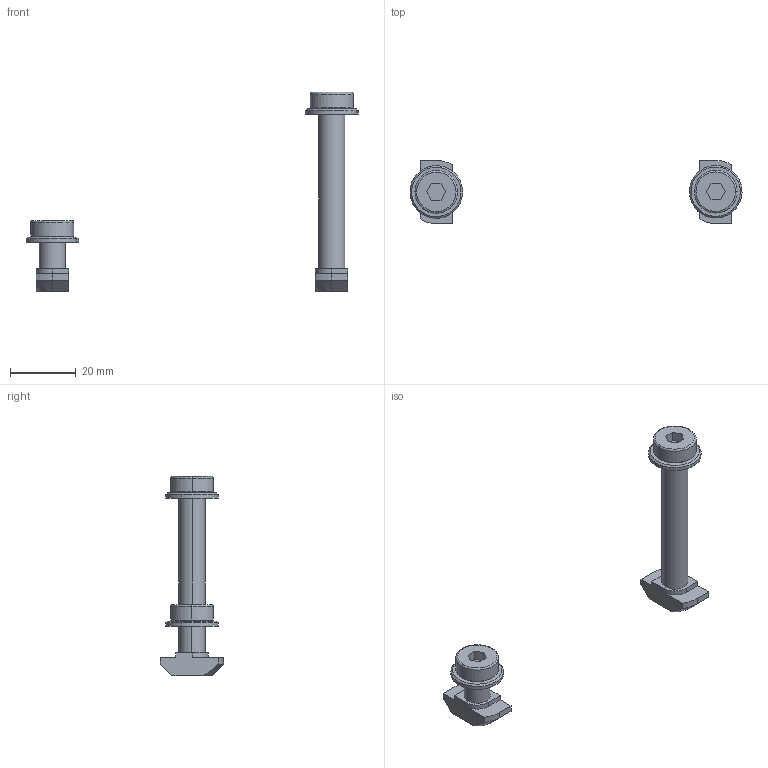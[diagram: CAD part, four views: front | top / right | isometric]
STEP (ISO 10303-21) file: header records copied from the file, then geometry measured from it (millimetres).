
FILE_DESCRIPTION (( 'STEP AP203' ), '1' );
FILE_NAME ('75000011.STEP', '2016-11-18T09:24:59', ( '' ), ( '' ), 'SwSTEP 2.0', 'SolidWorks 2015', '' );
FILE_SCHEMA (( 'CONFIG_CONTROL_DESIGN' ));
Length unit declared in the file: millimetre
Products named in the file (1): 75000011
Bounding box: 100.98 x 19.2 x 60.6 mm (x, y, z)
Volume: 6547 mm3; surface area: 4785.8 mm2
Topology: 2 solids, 2 shells, 100 faces, 232 edges, 148 vertices
Faces by surface type: plane 48, cylinder 32, cone 16, torus 4
Entity records: 3175 total; most frequent: CARTESIAN_POINT 761, DIRECTION 502, ORIENTED_EDGE 464, EDGE_CURVE 232, AXIS2_PLACEMENT_3D 181, VERTEX_POINT 148, LINE 140, VECTOR 140
